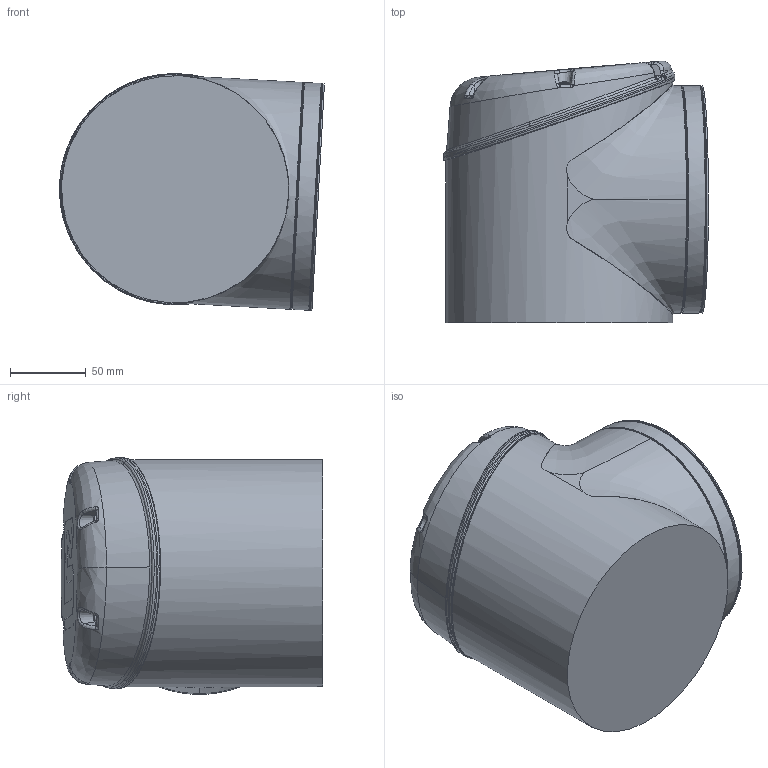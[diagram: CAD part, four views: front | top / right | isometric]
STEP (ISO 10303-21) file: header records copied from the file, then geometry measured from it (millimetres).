
FILE_DESCRIPTION(/* description */ ('STEP AP242 Edition 2','CAx-IF Rec.Pracs.---Representation and Presentation of Product Manufacturing Information (PMI)---4.0---2014-10-13','CAx-IF Rec.Pracs.---3D Tessellated Geometry---0.4---2014-09-14','2;1','CAx-IF Rec.Pracs.---User Defined Attributes---1.5---2016-08-15'),/* implementation_level */ '2;1');
FILE_NAME(/* name */ 'Assembly 1 - Link_1__Imported1',/* time_stamp */ '2026-08-25T13:00:44Z',/* author */ (''),/* organization */ (''),/* preprocessor_version */ 'ST-DEVELOPER v20',/* originating_system */ 'ONSHAPE BY PTC INC, 1.219',/* authorisation */ ' ');
FILE_SCHEMA (('AP242_MANAGED_MODEL_BASED_3D_ENGINEERING_MIM_LF { 1 0 10303 442 3 1 4 }'));
Length unit declared in the file: metre
Products named in the file (1): Link_1__Imported1
Bounding box: 174.88 x 172.71 x 156.41 mm (x, y, z)
Volume: 3457673.4 mm3; surface area: 129772.6 mm2
Topology: 1 solids, 1 shells, 391 faces, 1103 edges, 725 vertices
Faces by surface type: bspline 125, cylinder 119, cone 60, torus 39, plane 29, sphere 19
Full cylindrical faces by diameter (mm): 5.6 x6, 150 x3
Entity records: 27671 total; most frequent: CARTESIAN_POINT 18674, ORIENTED_EDGE 2100, EDGE_CURVE 1050, DIRECTION 872, B_SPLINE_CURVE_WITH_KNOTS 818, VERTEX_POINT 714, FACE_BOUND 440, EDGE_LOOP 433
